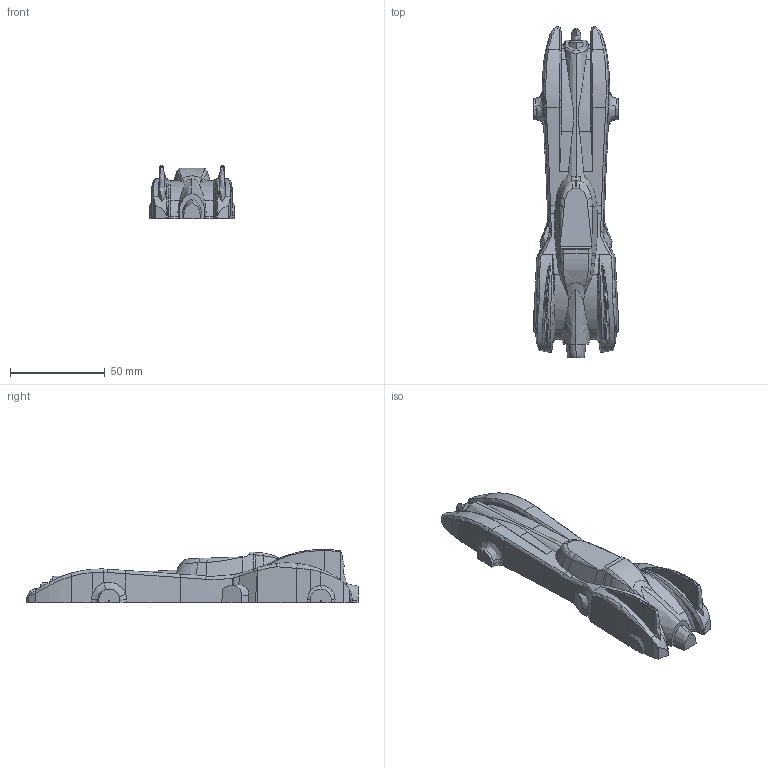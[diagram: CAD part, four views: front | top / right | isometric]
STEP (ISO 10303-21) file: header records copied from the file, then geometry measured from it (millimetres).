
FILE_DESCRIPTION (( 'STEP AP203' ), '1' );
FILE_NAME ('BATMOBILE PINEWOOD.STEP', '2017-08-29T13:44:12', ( '' ), ( '' ), 'SwSTEP 2.0', 'SolidWorks 2015', '' );
FILE_SCHEMA (( 'CONFIG_CONTROL_DESIGN' ));
Length unit declared in the file: inch
Products named in the file (1): BATMOBILE PINEWOOD
Bounding box: 44.45 x 175.4 x 28.1 mm (x, y, z)
Volume: 100395.7 mm3; surface area: 21034.4 mm2
Topology: 1 solids, 1 shells, 300 faces, 795 edges, 487 vertices
Faces by surface type: bspline 232, plane 62, cylinder 6
Entity records: 14679 total; most frequent: CARTESIAN_POINT 9427, ORIENTED_EDGE 1570, EDGE_CURVE 785, VERTEX_POINT 487, DIRECTION 426, B_SPLINE_CURVE_WITH_KNOTS 342, ADVANCED_FACE 300, EDGE_LOOP 300
